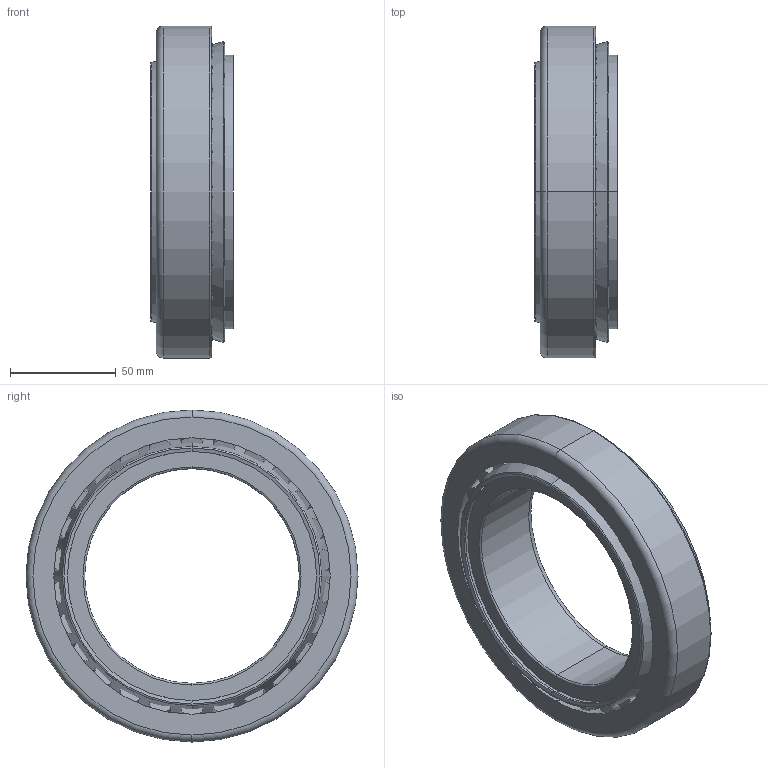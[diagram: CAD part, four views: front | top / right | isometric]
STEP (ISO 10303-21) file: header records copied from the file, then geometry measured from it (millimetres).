
FILE_DESCRIPTION(('starvars output'),'2;1');
FILE_NAME('cv20190813193011000029813.stp','19:30:12 2019/08/13',( 'Thomas Industrial Network Germany GmbH'),( 'Thomas Industrial Network Germany GmbH'),'unknown preprocess','ACIS' ,'unknown authorization');
FILE_SCHEMA(('AUTOMOTIVE_DESIGN_CC2 {UNKNOWN IMPLEMENTATION LEVEL}'));
Length unit declared in the file: millimetre
Products named in the file (4): PRODUCT_ID_1; PRODUCT_ID_2; PRODUCT_ID_3; PRODUCT_ID_4
Bounding box: 39.16 x 157.16 x 157.16 mm (x, y, z)
Volume: 311869.4 mm3; surface area: 126200.8 mm2
Topology: 29 solids, 29 shells, 146 faces, 240 edges, 150 vertices
Faces by surface type: cone 72, plane 56, torus 10, cylinder 8
Entity records: 4310 total; most frequent: ORIENTED_EDGE 480, DIRECTION 460, CARTESIAN_POINT 420, EDGE_CURVE 240, AXIS2_PLACEMENT_3D 190, VERTEX_POINT 150, EDGE_LOOP 150, FACE_BOUND 150
